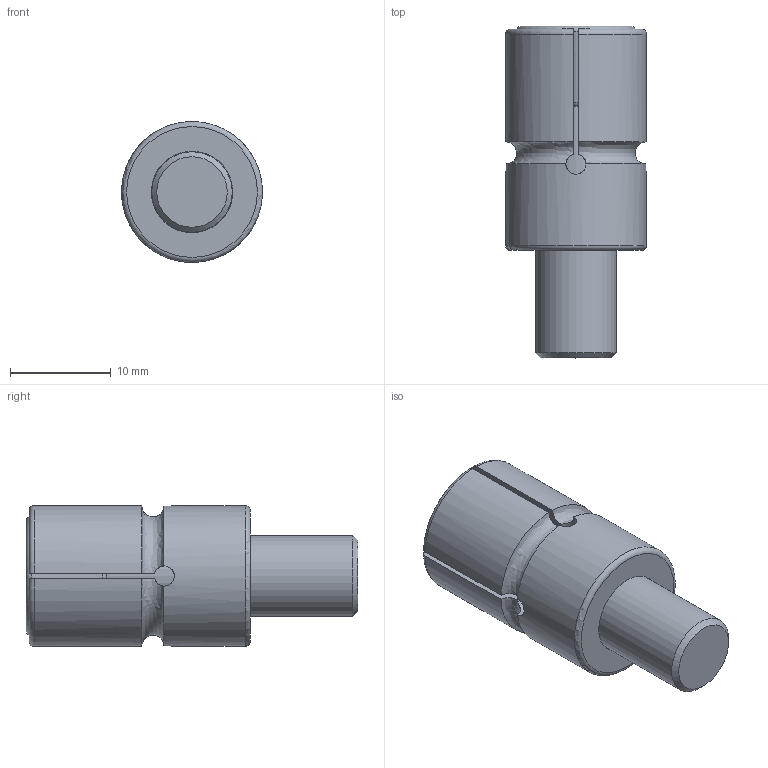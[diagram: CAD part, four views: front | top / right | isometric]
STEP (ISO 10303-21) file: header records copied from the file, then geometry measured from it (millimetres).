
FILE_DESCRIPTION(/* description */ (''),/* implementation_level */ '2;1');
FILE_NAME(/* name */ '14MM扩张销.stp',/* time_stamp */ '2023-11-24T01:10:50+08:00',/* author */ (''),/* organization */ (''),/* preprocessor_version */ 'ST-DEVELOPER v16',/* originating_system */ 'SIEMENS PLM Software NX 10.0',/* authorisation */ '');
FILE_SCHEMA (('CONFIG_CONTROL_DESIGN'));
Length unit declared in the file: millimetre
Products named in the file (1): 14MM扩张销_stp
Bounding box: 14 x 33 x 14 mm (x, y, z)
Volume: 3604.6 mm3; surface area: 3100.3 mm2
Topology: 2 solids, 2 shells, 57 faces, 149 edges, 97 vertices
Faces by surface type: plane 23, cylinder 17, torus 7, cone 6, bspline 4
Full cylindrical faces by diameter (mm): 8 x1, 8.1 x1, 14 x1
Entity records: 3560 total; most frequent: CARTESIAN_POINT 2218, ORIENTED_EDGE 272, DIRECTION 228, EDGE_CURVE 136, VERTEX_POINT 92, AXIS2_PLACEMENT_3D 86, EDGE_LOOP 68, ADVANCED_FACE 57
